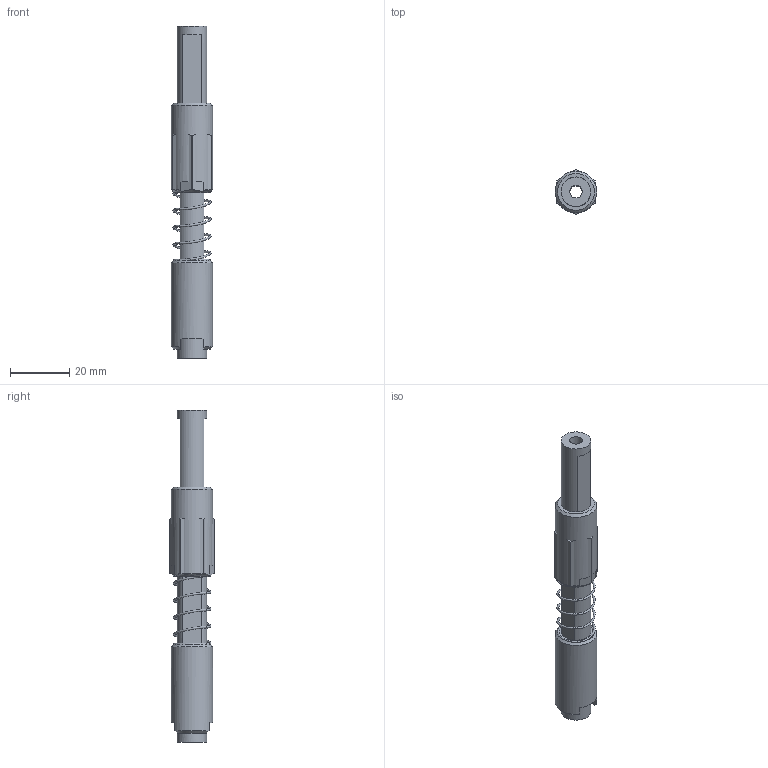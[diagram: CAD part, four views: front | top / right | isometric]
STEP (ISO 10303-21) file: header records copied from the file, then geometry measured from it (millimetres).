
FILE_DESCRIPTION( ( 'STEP AP214' ), '1' );
FILE_NAME( 'C:/Users/Segreteria/Desktop/CA.05.02.012.stp', '2014-07-02T14:28:42', ( ' ' ), ( ' ' ), 'XStep 1.0', ' ', ' ' );
FILE_SCHEMA( ( 'CONFIG_CONTROL_DESIGN) ( )' ) );
Length unit declared in the file: millimetre
Products named in the file (8): Assem1; 05-01-001-07; molla12x25; 05.01.001.01; 05.01.001.03.14
Bounding box: 14 x 15 x 112 mm (x, y, z)
Volume: 14843.5 mm3; surface area: 14191.8 mm2
Topology: 14 solids, 14 shells, 126 faces, 304 edges, 202 vertices
Faces by surface type: plane 60, cylinder 28, torus 20, cone 18
Full cylindrical faces by diameter (mm): 4.2 x2, 5.917 x2, 6.2 x2, 7 x2, 8.566 x2, 10 x4, 14 x2
Entity records: 2101 total; most frequent: CARTESIAN_POINT 509, DIRECTION 292, ORIENTED_EDGE 228, AXIS2_PLACEMENT_3D 129, EDGE_CURVE 114, EDGE_LOOP 94, VERTEX_POINT 86, FACE_OUTER_BOUND 81
